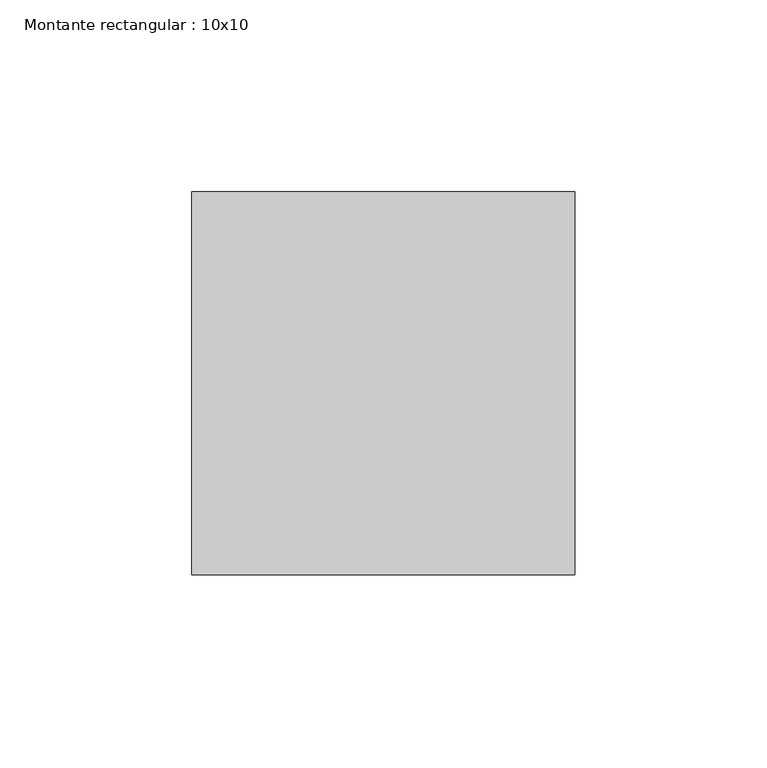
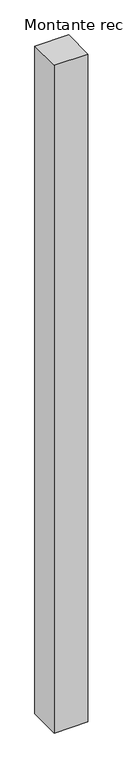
"""IFC4 building model written with IfcOpenShell, lengths in millimetres: member geometry, Montante rectangular : 10x10."""

from ifc_helpers import new_model, si_unit, frame, origin, place, context, project, spatial, polyline, outline, extrude, source, transform, mapped, element, save


def montante_rectangular_10x10_23ae108b(model_context):
    return source(origin(), model_context, "Body", "SweptSolid", [
        extrude(outline(polyline([(100.0, 50.0), (100.0, -50.0), (0.0, -50.0), (0.0, 50.0), (100.0, 50.0)])), frame((0.0, 0.0, -2100.0), z_axis=(0.0, 0.0, 1.0), x_axis=(1.0, 0.0, 0.0)), (0.0, 0.0, 1.0), 2100.0),
    ])


if __name__ == "__main__":
    model = new_model("IFC4")
    model_context = context("Model", 3, world=origin())
    ifc_project = project(units=[si_unit("LENGTHUNIT", "METRE", prefix="MILLI")], contexts=[model_context])
    site = spatial("IfcSite", under=ifc_project)
    building = spatial("IfcBuilding", under=site)
    placement = place(None, origin())
    montante_rectangular_10x10_shape = montante_rectangular_10x10_23ae108b(model_context)
    element("IfcMember", 1, ObjectType="Montante rectangular : 10x10", at=placement, inside=building, context=model_context, shape_type="MappedRepresentation", body=[
        mapped(montante_rectangular_10x10_shape, transform((0.0, 0.0, 0.0), x_axis=(1.0, 0.0, 0.0), y_axis=(0.0, 1.0, 0.0), z_axis=(0.0, 0.0, 1.0))),
    ])
    save(model, "model.ifc")
